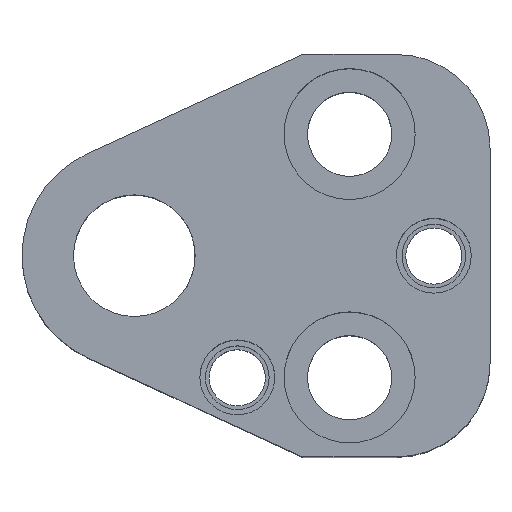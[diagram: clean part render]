
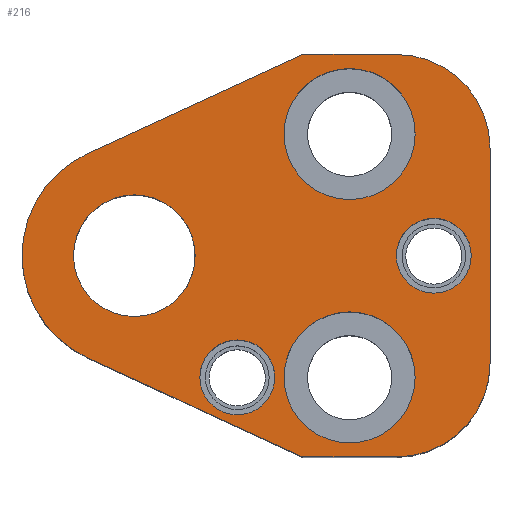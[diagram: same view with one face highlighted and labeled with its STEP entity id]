
A CAD part, top view. The second image highlights one B-rep face of the part: STEP entity #216.
In plain terms, the highlighted planar face has unit normal (0, 0, 1).
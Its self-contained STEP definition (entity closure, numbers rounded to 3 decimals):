
#104=FACE_BOUND('',#309,.T.);
#105=FACE_BOUND('',#310,.T.);
#106=FACE_BOUND('',#311,.T.);
#107=FACE_BOUND('',#312,.T.);
#108=FACE_BOUND('',#313,.T.);
#109=FACE_BOUND('',#314,.T.);
#148=CIRCLE('',#832,10.);
#150=CIRCLE('',#836,10.);
#160=CIRCLE('',#852,7.);
#162=CIRCLE('',#855,7.);
#164=CIRCLE('',#859,7.);
#166=CIRCLE('',#862,7.);
#168=CIRCLE('',#866,12.);
#169=CIRCLE('',#867,4.);
#170=CIRCLE('',#868,4.);
#171=CIRCLE('',#869,4.);
#172=CIRCLE('',#870,4.);
#173=CIRCLE('',#871,6.5);
#174=CIRCLE('',#872,6.5);
#216=ADVANCED_FACE('',(#104,#105,#106,#107,#108,#109),#248,.T.);
#248=PLANE('',#873);
#309=EDGE_LOOP('',(#409,#410,#411,#412,#413,#414,#415,#416));
#310=EDGE_LOOP('',(#417,#418));
#311=EDGE_LOOP('',(#419,#420));
#312=EDGE_LOOP('',(#421,#422));
#313=EDGE_LOOP('',(#423,#424));
#314=EDGE_LOOP('',(#425,#426));
#409=ORIENTED_EDGE('',*,*,#627,.T.);
#410=ORIENTED_EDGE('',*,*,#631,.T.);
#411=ORIENTED_EDGE('',*,*,#634,.T.);
#412=ORIENTED_EDGE('',*,*,#637,.T.);
#413=ORIENTED_EDGE('',*,*,#640,.T.);
#414=ORIENTED_EDGE('',*,*,#666,.T.);
#415=ORIENTED_EDGE('',*,*,#667,.T.);
#416=ORIENTED_EDGE('',*,*,#668,.T.);
#417=ORIENTED_EDGE('',*,*,#669,.F.);
#418=ORIENTED_EDGE('',*,*,#670,.F.);
#419=ORIENTED_EDGE('',*,*,#671,.F.);
#420=ORIENTED_EDGE('',*,*,#672,.F.);
#421=ORIENTED_EDGE('',*,*,#664,.F.);
#422=ORIENTED_EDGE('',*,*,#660,.F.);
#423=ORIENTED_EDGE('',*,*,#658,.F.);
#424=ORIENTED_EDGE('',*,*,#654,.F.);
#425=ORIENTED_EDGE('',*,*,#673,.T.);
#426=ORIENTED_EDGE('',*,*,#674,.T.);
#558=VERTEX_POINT('',#1171);
#559=VERTEX_POINT('',#1173);
#562=VERTEX_POINT('',#1180);
#564=VERTEX_POINT('',#1186);
#566=VERTEX_POINT('',#1192);
#568=VERTEX_POINT('',#1198);
#577=VERTEX_POINT('',#1227);
#578=VERTEX_POINT('',#1228);
#581=VERTEX_POINT('',#1240);
#582=VERTEX_POINT('',#1241);
#585=VERTEX_POINT('',#1253);
#586=VERTEX_POINT('',#1255);
#587=VERTEX_POINT('',#1258);
#588=VERTEX_POINT('',#1259);
#589=VERTEX_POINT('',#1262);
#590=VERTEX_POINT('',#1263);
#591=VERTEX_POINT('',#1266);
#592=VERTEX_POINT('',#1267);
#627=EDGE_CURVE('',#559,#558,#731,.T.);
#631=EDGE_CURVE('',#558,#562,#148,.T.);
#634=EDGE_CURVE('',#562,#564,#736,.T.);
#637=EDGE_CURVE('',#564,#566,#150,.T.);
#640=EDGE_CURVE('',#566,#568,#740,.T.);
#654=EDGE_CURVE('',#577,#578,#160,.T.);
#658=EDGE_CURVE('',#578,#577,#162,.T.);
#660=EDGE_CURVE('',#581,#582,#164,.T.);
#664=EDGE_CURVE('',#582,#581,#166,.T.);
#666=EDGE_CURVE('',#568,#585,#750,.T.);
#667=EDGE_CURVE('',#585,#586,#168,.T.);
#668=EDGE_CURVE('',#586,#559,#751,.T.);
#669=EDGE_CURVE('',#587,#588,#169,.T.);
#670=EDGE_CURVE('',#588,#587,#170,.T.);
#671=EDGE_CURVE('',#589,#590,#171,.T.);
#672=EDGE_CURVE('',#590,#589,#172,.T.);
#673=EDGE_CURVE('',#591,#592,#173,.T.);
#674=EDGE_CURVE('',#592,#591,#174,.T.);
#731=LINE('',#1172,#781);
#736=LINE('',#1187,#786);
#740=LINE('',#1199,#790);
#750=LINE('',#1252,#800);
#751=LINE('',#1256,#801);
#781=VECTOR('',#929,1.);
#786=VECTOR('',#942,1.);
#790=VECTOR('',#954,1.);
#800=VECTOR('',#1018,1.);
#801=VECTOR('',#1021,1.);
#832=AXIS2_PLACEMENT_3D('',#1181,#935,#936);
#836=AXIS2_PLACEMENT_3D('',#1193,#947,#948);
#852=AXIS2_PLACEMENT_3D('',#1226,#986,#987);
#855=AXIS2_PLACEMENT_3D('',#1235,#994,#995);
#859=AXIS2_PLACEMENT_3D('',#1239,#1002,#1003);
#862=AXIS2_PLACEMENT_3D('',#1248,#1010,#1011);
#866=AXIS2_PLACEMENT_3D('',#1254,#1019,#1020);
#867=AXIS2_PLACEMENT_3D('',#1257,#1022,#1023);
#868=AXIS2_PLACEMENT_3D('',#1260,#1024,#1025);
#869=AXIS2_PLACEMENT_3D('',#1261,#1026,#1027);
#870=AXIS2_PLACEMENT_3D('',#1264,#1028,#1029);
#871=AXIS2_PLACEMENT_3D('',#1265,#1030,#1031);
#872=AXIS2_PLACEMENT_3D('',#1268,#1032,#1033);
#873=AXIS2_PLACEMENT_3D('',#1269,#1034,#1035);
#929=DIRECTION('',(1.,0.,0.));
#935=DIRECTION('',(0.,0.,1.));
#936=DIRECTION('',(-0.707,0.707,0.));
#942=DIRECTION('',(0.,1.,0.));
#947=DIRECTION('',(0.,0.,1.));
#948=DIRECTION('',(-0.707,-0.707,0.));
#954=DIRECTION('',(-1.,0.,0.));
#986=DIRECTION('',(0.,0.,1.));
#987=DIRECTION('',(-1.,0.,0.));
#994=DIRECTION('',(0.,0.,1.));
#995=DIRECTION('',(1.,0.,0.));
#1002=DIRECTION('',(0.,0.,1.));
#1003=DIRECTION('',(-1.,0.,0.));
#1010=DIRECTION('',(0.,0.,1.));
#1011=DIRECTION('',(1.,0.,0.));
#1018=DIRECTION('',(-0.908,-0.418,0.));
#1019=DIRECTION('',(0.,0.,1.));
#1020=DIRECTION('',(1.,0.,0.));
#1021=DIRECTION('',(0.908,-0.418,0.));
#1022=DIRECTION('',(0.,0.,1.));
#1023=DIRECTION('',(1.,0.,0.));
#1024=DIRECTION('',(0.,0.,1.));
#1025=DIRECTION('',(-1.,0.,0.));
#1026=DIRECTION('',(0.,0.,1.));
#1027=DIRECTION('',(1.,0.,0.));
#1028=DIRECTION('',(0.,0.,1.));
#1029=DIRECTION('',(-1.,0.,0.));
#1030=DIRECTION('',(0.,0.,-1.));
#1031=DIRECTION('',(-1.,0.,0.));
#1032=DIRECTION('',(0.,0.,-1.));
#1033=DIRECTION('',(1.,0.,0.));
#1034=DIRECTION('',(0.,0.,1.));
#1035=DIRECTION('',(0.908,-0.418,0.));
#1171=CARTESIAN_POINT('',(28.,-21.5,35.));
#1172=CARTESIAN_POINT('',(18.,-21.5,35.));
#1173=CARTESIAN_POINT('',(18.,-21.5,35.));
#1180=CARTESIAN_POINT('',(38.,-11.5,35.));
#1181=CARTESIAN_POINT('',(28.,-11.5,35.));
#1186=CARTESIAN_POINT('',(38.,11.5,35.));
#1187=CARTESIAN_POINT('',(38.,11.5,35.));
#1192=CARTESIAN_POINT('',(28.,21.5,35.));
#1193=CARTESIAN_POINT('',(28.,11.5,35.));
#1198=CARTESIAN_POINT('',(18.,21.5,35.));
#1199=CARTESIAN_POINT('',(18.,21.5,35.));
#1226=CARTESIAN_POINT('',(23.,13.,35.));
#1227=CARTESIAN_POINT('',(23.,6.,35.));
#1228=CARTESIAN_POINT('',(23.,20.,35.));
#1235=CARTESIAN_POINT('',(23.,13.,35.));
#1239=CARTESIAN_POINT('',(23.,-13.,35.));
#1240=CARTESIAN_POINT('',(23.,-20.,35.));
#1241=CARTESIAN_POINT('',(23.,-6.,35.));
#1248=CARTESIAN_POINT('',(23.,-13.,35.));
#1252=CARTESIAN_POINT('',(18.,21.5,35.));
#1253=CARTESIAN_POINT('',(-5.019,10.9,35.));
#1254=CARTESIAN_POINT('',(0.,0.,35.));
#1255=CARTESIAN_POINT('',(-5.019,-10.9,35.));
#1256=CARTESIAN_POINT('',(18.,-21.5,35.));
#1257=CARTESIAN_POINT('',(32.,0.,35.));
#1258=CARTESIAN_POINT('',(32.,4.,35.));
#1259=CARTESIAN_POINT('',(32.,-4.,35.));
#1260=CARTESIAN_POINT('',(32.,0.,35.));
#1261=CARTESIAN_POINT('',(11.,-13.,35.));
#1262=CARTESIAN_POINT('',(11.,-9.,35.));
#1263=CARTESIAN_POINT('',(11.,-17.,35.));
#1264=CARTESIAN_POINT('',(11.,-13.,35.));
#1265=CARTESIAN_POINT('',(0.,0.,35.));
#1266=CARTESIAN_POINT('',(0.,6.5,35.));
#1267=CARTESIAN_POINT('',(0.,-6.5,35.));
#1268=CARTESIAN_POINT('',(0.,0.,35.));
#1269=CARTESIAN_POINT('',(18.,-21.5,35.));
